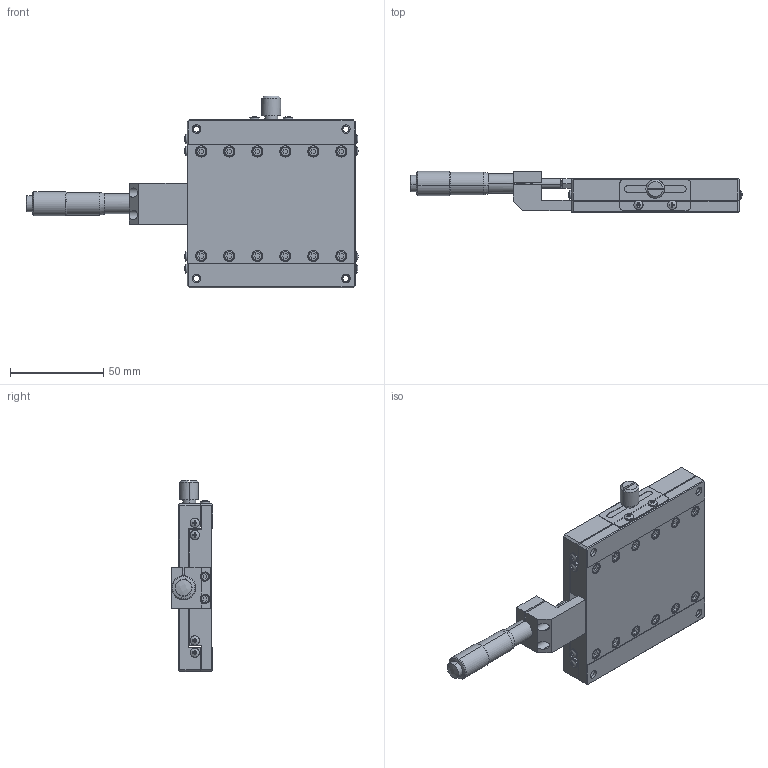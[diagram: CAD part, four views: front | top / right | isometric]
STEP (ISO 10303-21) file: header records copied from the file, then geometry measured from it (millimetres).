
FILE_DESCRIPTION (( 'STEP AP203' ), '1' );
FILE_NAME ('LX90-C.STEP', '2013-12-21T11:38:05', ( 'pengyu' ), ( '' ), 'SwSTEP 2.0', 'SolidWorks 2011', '' );
FILE_SCHEMA (( 'CONFIG_CONTROL_DESIGN' ));
Length unit declared in the file: millimetre
Products named in the file (4): LX90-C; MT25-1-1; L90C-2; L90C-1
Assembly tree (3 placements, depth 2):
  LX90-C
    L90C-2
    L90C-1
    MT25-1-1
Bounding box: 177.81 x 22 x 102.6 mm (x, y, z)
Volume: 139488.7 mm3; surface area: 56454.2 mm2
Topology: 3 solids, 7 shells, 884 faces, 2178 edges, 1393 vertices
Faces by surface type: plane 505, cylinder 213, cone 96, bspline 70
Entity records: 27527 total; most frequent: CARTESIAN_POINT 6333, DIRECTION 4319, ORIENTED_EDGE 4308, EDGE_CURVE 2154, AXIS2_PLACEMENT_3D 1579, VERTEX_POINT 1393, LINE 1161, VECTOR 1161
